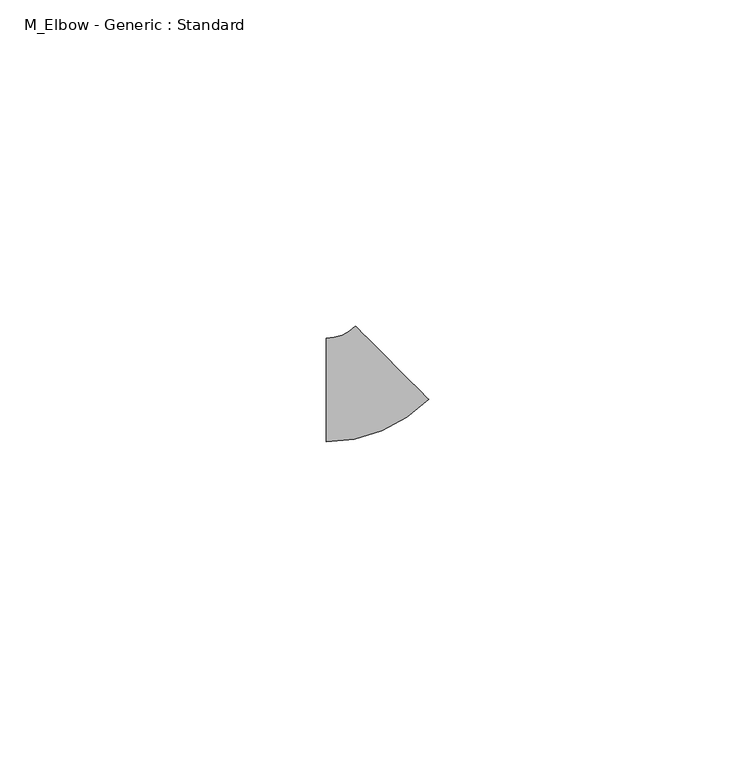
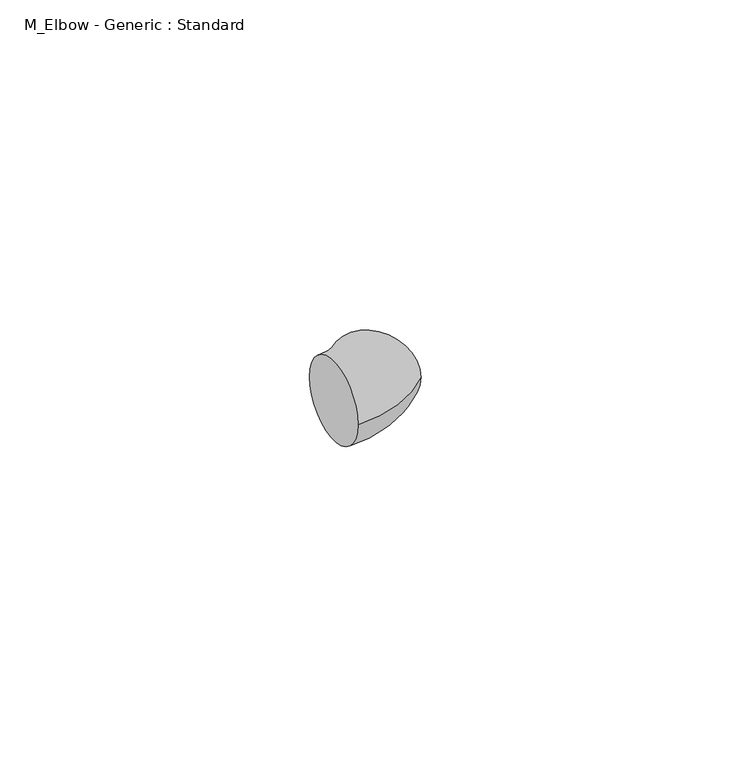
"""IFC4 building model written with IfcOpenShell, lengths in millimetres: pipe fitting geometry, M_Elbow - Generic : Standard."""

from ifc_helpers import new_model, si_unit, point, frame, origin, place, context, project, spatial, circle_curve, ellipse_curve, trimmed, source, transform, mapped, element, save
from ifc_brep_helpers import plane_surface, revolved_surface, advanced_brep


def m_elbow_generic_standard_65e6739a(model_context):
    return source(origin(), model_context, "Body", "AdvancedBrep", [
        advanced_brep(
        [(-5.9180763, -7.9375, 0.0), (-5.9180763, 7.9375, 0.0), (9.7973719, -1.4279482, 0.0), (-1.4279482, 9.7973719, 0.0)],
        [
            (0, 1, circle_curve(frame((-5.9180763, 0.0, 0.0), z_axis=(-1.0, 0.0, 0.0), x_axis=(0.0, 1.0, 0.0)), 7.9375)),
            (1, 0, circle_curve(frame((-5.9180763, 0.0, 0.0), z_axis=(-1.0, 0.0, 0.0), x_axis=(0.0, 1.0, 0.0)), 7.9375)),
            (2, 3, circle_curve(frame((4.1847119, 4.1847119, 0.0), z_axis=(0.7071067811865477, 0.7071067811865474, 0.0), x_axis=(-0.7071067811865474, 0.7071067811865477, 0.0)), 7.9375)),
            (3, 2, circle_curve(frame((4.1847119, 4.1847119, 0.0), z_axis=(0.7071067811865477, 0.7071067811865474, 0.0), x_axis=(-0.7071067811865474, 0.7071067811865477, 0.0)), 7.9375)),
            (3, 1, circle_curve(frame((-5.9180763, 14.2875, 0.0), z_axis=(0.0, 0.0, -1.0), x_axis=(0.0, -1.0, 0.0)), 6.35)),
            (0, 2, circle_curve(frame((-5.9180763, 14.2875, 0.0), z_axis=(0.0, 0.0, 1.0), x_axis=(0.0, -1.0, 0.0)), 22.225)),
        ],
        [
            plane_surface(frame((-5.9180763, 0.0, 0.0), z_axis=(-1.0, 0.0, 0.0), x_axis=(0.0, 0.0, 1.0))),
            plane_surface(frame((4.1847119, 4.1847119, 0.0), z_axis=(0.7071067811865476, 0.7071067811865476, 0.0), x_axis=(0.0, 0.0, 1.0))),
            revolved_surface(trimmed(ellipse_curve(frame((-5.9180763, 0.0, 0.0), z_axis=(-1.0, 0.0, 0.0), x_axis=(0.0, 1.0, 0.0)), 7.9375, 7.9375), [point((-5.9180763, -7.9375, 0.0))], [point((-5.9180763, 7.9375, 0.0))], True, "CARTESIAN"), (-5.9180763, 14.2875, 0.0), (0.0, 0.0, 1.0)),
            revolved_surface(trimmed(ellipse_curve(frame((-5.9180763, 0.0, 0.0), z_axis=(-1.0, 0.0, 0.0), x_axis=(0.0, 1.0, 0.0)), 7.9375, 7.9375), [point((-5.9180763, 7.9375, 0.0))], [point((-5.9180763, -7.9375, 0.0))], True, "CARTESIAN"), (-5.9180763, 14.2875, 0.0), (0.0, 0.0, 1.0)),
        ],
        [
            (0, [[1, 2]]),
            (1, [[3, 4]]),
            (2, [[5, -1, 6, -4]]),
            (3, [[-6, -2, -5, -3]]),
        ],
    ),
    ])


if __name__ == "__main__":
    model = new_model("IFC4")
    model_context = context("Model", 3, world=origin())
    ifc_project = project(units=[si_unit("LENGTHUNIT", "METRE", prefix="MILLI")], contexts=[model_context])
    site = spatial("IfcSite", under=ifc_project)
    building = spatial("IfcBuilding", under=site)
    placement = place(None, origin())
    m_elbow_generic_standard_shape = m_elbow_generic_standard_65e6739a(model_context)
    element("IfcPipeFitting", 1, ObjectType="M_Elbow - Generic : Standard", at=placement, inside=building, context=model_context, shape_type="MappedRepresentation", body=[
        mapped(m_elbow_generic_standard_shape, transform((0.0, 0.0, 0.0), x_axis=(1.0, 0.0, 0.0), y_axis=(0.0, 1.0, 0.0), z_axis=(0.0, 0.0, 1.0))),
    ])
    save(model, "model.ifc")
